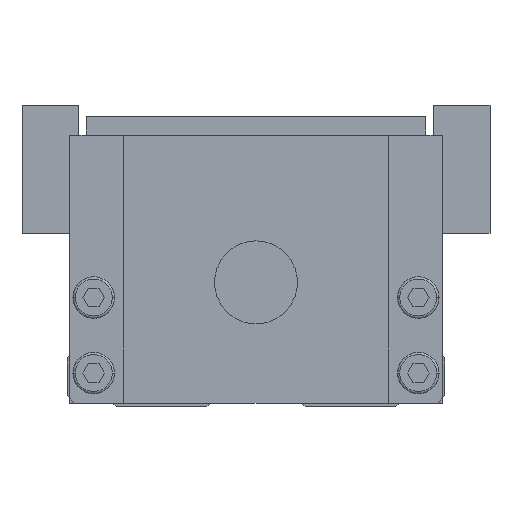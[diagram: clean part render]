
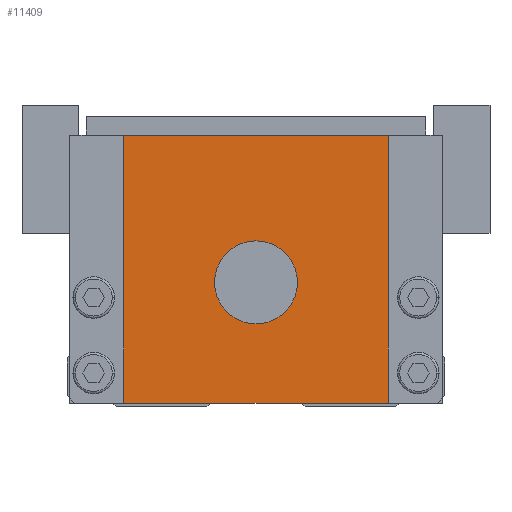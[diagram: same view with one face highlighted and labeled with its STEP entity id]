
A CAD part, front view. The second image highlights one B-rep face of the part: STEP entity #11409.
In plain terms, the highlighted planar face has unit normal (0, -1, 0).
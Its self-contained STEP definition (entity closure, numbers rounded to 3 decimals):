
#7465=EDGE_CURVE('',#8697,#16363,#19554,.T.);
#7667=VERTEX_POINT('',#19788);
#7901=VERTEX_POINT('',#20044);
#8373=EDGE_CURVE('',#12631,#15759,#20573,.T.);
#8697=VERTEX_POINT('',#20932);
#8785=EDGE_CURVE('',#16363,#15759,#21031,.T.);
#10779=EDGE_CURVE('',#7667,#7901,#23245,.T.);
#11409=ADVANCED_FACE('',(#23934,#23935),#23936,.F.);
#11847=EDGE_CURVE('',#12631,#8697,#24434,.T.);
#12631=VERTEX_POINT('',#25316);
#15759=VERTEX_POINT('',#28779);
#15991=EDGE_CURVE('',#7901,#7667,#29034,.T.);
#16363=VERTEX_POINT('',#29440);
#19554=LINE('',#33466,#33467);
#19788=CARTESIAN_POINT('',(5.5,0.0,16.5));
#20044=CARTESIAN_POINT('',(-5.5,0.0,16.5));
#20573=LINE('',#34894,#34895);
#20932=CARTESIAN_POINT('',(17.5,0.0,36.0));
#21031=LINE('',#35679,#35680);
#23245=CIRCLE('',#38896,5.5);
#23934=FACE_BOUND('',#39884,.T.);
#23935=FACE_OUTER_BOUND('',#39885,.T.);
#23936=PLANE('',#39886);
#24434=LINE('',#40576,#40577);
#25316=CARTESIAN_POINT('',(-17.5,0.0,36.0));
#28779=CARTESIAN_POINT('',(-17.5,0.0,0.5));
#29034=CIRCLE('',#47157,5.5);
#29440=CARTESIAN_POINT('',(17.5,0.0,0.5));
#33466=CARTESIAN_POINT('',(17.5,0.0,18.25));
#33467=VECTOR('',#52058,1.0);
#34894=CARTESIAN_POINT('',(-17.5,0.0,18.25));
#34895=VECTOR('',#53330,1.0);
#35679=CARTESIAN_POINT('',(0.0,0.0,0.5));
#35680=VECTOR('',#53835,1.0);
#38896=AXIS2_PLACEMENT_3D('',#56329,#56330,#56331);
#39884=EDGE_LOOP('',(#57057,#57058));
#39885=EDGE_LOOP('',(#57059,#57060,#57061,#57062));
#39886=AXIS2_PLACEMENT_3D('',#57063,#57064,#57065);
#40576=CARTESIAN_POINT('',(0.0,0.0,36.0));
#40577=VECTOR('',#57662,1.0);
#47157=AXIS2_PLACEMENT_3D('',#62885,#62886,#62887);
#52058=DIRECTION('',(0.0,0.0,-1.0));
#53330=DIRECTION('',(0.0,0.0,-1.0));
#53835=DIRECTION('',(-1.0,0.0,0.0));
#56329=CARTESIAN_POINT('',(0.0,0.0,16.5));
#56330=DIRECTION('',(-0.0,1.0,0.0));
#56331=DIRECTION('',(1.0,0.0,0.0));
#57057=ORIENTED_EDGE('',*,*,#10779,.T.);
#57058=ORIENTED_EDGE('',*,*,#15991,.T.);
#57059=ORIENTED_EDGE('',*,*,#8373,.T.);
#57060=ORIENTED_EDGE('',*,*,#8785,.F.);
#57061=ORIENTED_EDGE('',*,*,#7465,.F.);
#57062=ORIENTED_EDGE('',*,*,#11847,.F.);
#57063=CARTESIAN_POINT('',(0.0,0.0,18.25));
#57064=DIRECTION('',(0.0,1.0,0.0));
#57065=DIRECTION('',(0.0,0.0,1.0));
#57662=DIRECTION('',(1.0,0.0,0.0));
#62885=CARTESIAN_POINT('',(0.0,0.0,16.5));
#62886=DIRECTION('',(-0.0,1.0,0.0));
#62887=DIRECTION('',(1.0,0.0,0.0));
